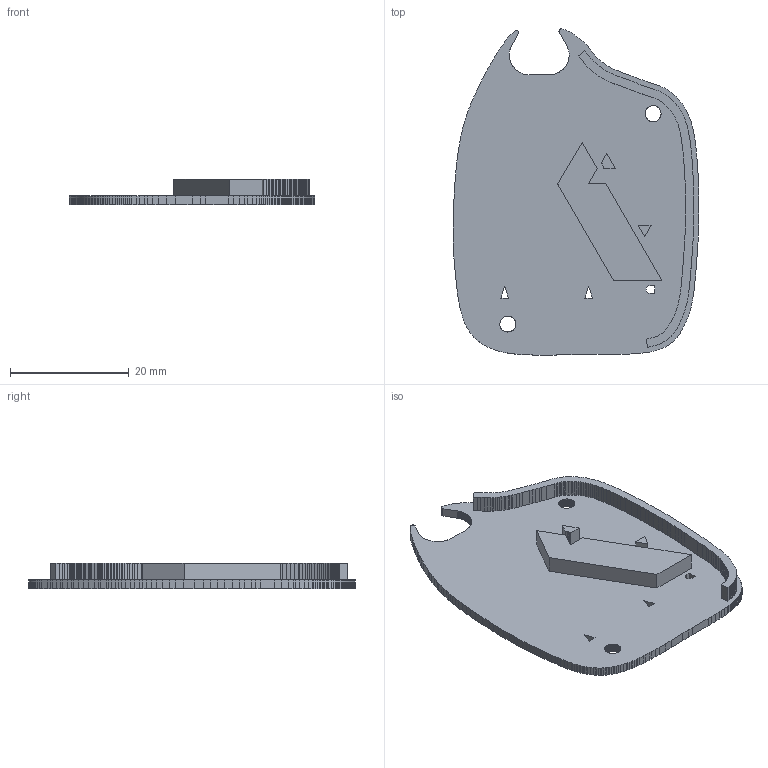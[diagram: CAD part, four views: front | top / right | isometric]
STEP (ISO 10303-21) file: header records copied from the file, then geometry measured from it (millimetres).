
FILE_DESCRIPTION(('Open CASCADE Model'),'2;1');
FILE_NAME('Open CASCADE Shape Model','2026-10-15T03:32:03',('Author'),( 'Open CASCADE'),'Open CASCADE STEP processor 7.9','Open CASCADE 7.9' ,'Unknown');
FILE_SCHEMA(('AUTOMOTIVE_DESIGN { 1 0 10303 214 1 1 1 1 }'));
Products named in the file (1): Open CASCADE STEP translator 7.9 4
Bounding box: 41.5 x 55.06 x 4.3 mm (x, y, z)
Volume: 3476.8 mm3; surface area: 4597 mm2
Topology: 1 solids, 1 shells, 762 faces, 2268 edges, 1512 vertices
Faces by surface type: plane 762
Entity records: 54034 total; most frequent: CARTESIAN_POINT 9571, DIRECTION 7838, LINE 6312, VECTOR 6312, ORIENTED_EDGE 4536, PCURVE 4536, DEFINITIONAL_REPRESENTATION 4536, EDGE_CURVE 2268
